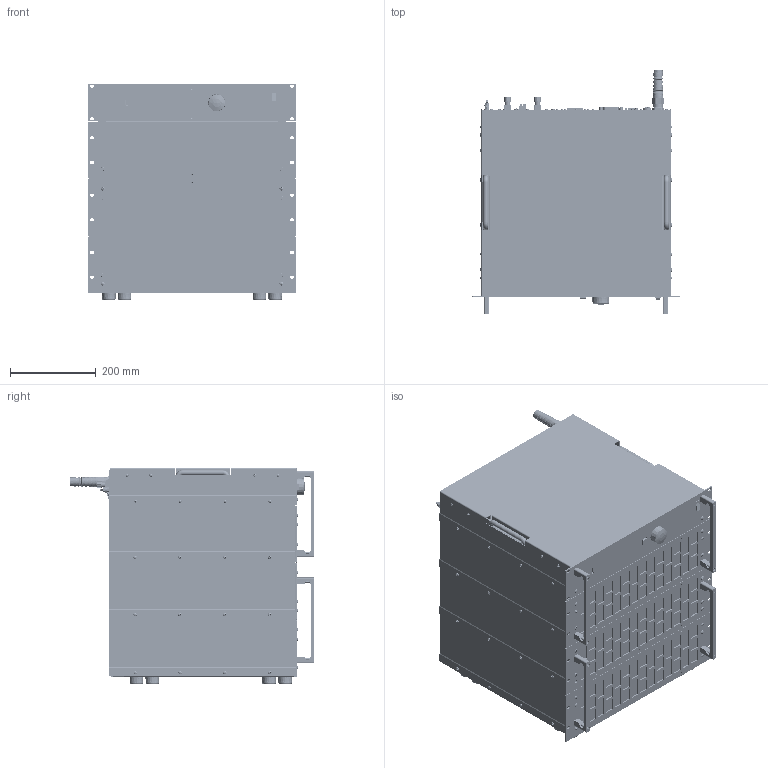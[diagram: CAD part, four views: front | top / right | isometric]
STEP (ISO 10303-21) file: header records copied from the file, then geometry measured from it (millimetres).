
FILE_DESCRIPTION(('STEP AP214'),'1');
FILE_NAME('QL_M23_19Z_11HE_BPK4_30L_3D_01.step','2022-03-15T09:42:29',(' '),(' '),'Spatial InterOp 3D',' ',' ');
FILE_SCHEMA(('AUTOMOTIVE_DESIGN { 1 0 10303 214 1 1 1 1 }'));
Length unit declared in the file: millimetre
Products named in the file (38): 3HE_Leistungsteil_mit_Gummifüssen_3D_01; *U404; *U405; *U406; *U415; AutoCreatedBlock_4227; 3HE_Leistungsteil_3D_01; *U420; *U421; *U422; AutoCreatedBlock_4253; DIN 966-A; Steuereinheit_BPK4_30L_mit_BG439_3D_01; 2121_Steuerteil_modular_Seitenteil_links_3D_02; 2122_Steuerteil_modular_Seitenteil_rechts_3D_02; A$C5EF2ED09; 3xM2.5_5x5x12; AutoCreatedBlock_4273; A$C6092449D; Frontplatte_5HE_Steuerteil_mit_Einbauten_3D; A$C60925E47; A$C60A76697; 2246_QL Rückwand Steuerteil 5HE_mit_Einbauten_3D_01; *U305; *U306; *U307; AutoCreatedBlock_4285; 2257_QL_IO Panel Standard_3D_01; 2084_IO-Port Abdeckung_3D_01; *U604; *U605; *U606; *U607; *U608; BG439_mit_MT2345_3D_01; AutoCreatedBlock_4263; AutoCreatedBlock_4223
Assembly tree (150 placements, depth 4):
  (unnamed)
    3HE_Leistungsteil_mit_Gummifüssen_3D_01
      *U404  x10
      *U405  x6
      *U406  x6
      *U415  x6
      AutoCreatedBlock_4227
    3HE_Leistungsteil_3D_01  x2
      *U420
      *U421
      *U422
      AutoCreatedBlock_4253
    DIN 966-A  x8
    Steuereinheit_BPK4_30L_mit_BG439_3D_01
      2121_Steuerteil_modular_Seitenteil_links_3D_02
      2122_Steuerteil_modular_Seitenteil_rechts_3D_02
      A$C5EF2ED09
        3xM2.5_5x5x12  x2
        AutoCreatedBlock_4273
      A$C6092449D
      Frontplatte_5HE_Steuerteil_mit_Einbauten_3D
      A$C60925E47
      A$C60A76697
      2246_QL Rückwand Steuerteil 5HE_mit_Einbauten_3D_01
        *U305
        *U306  x2
        *U307  x3
        AutoCreatedBlock_4285
      2257_QL_IO Panel Standard_3D_01
      2084_IO-Port Abdeckung_3D_01  x2
      *U604  x17
      *U605  x9
      *U606  x26
      *U607  x2
      *U608  x4
      BG439_mit_MT2345_3D_01
      AutoCreatedBlock_4263
    AutoCreatedBlock_4223
Bounding box: 482.61 x 569.25 x 504.57 mm (x, y, z)
Volume: 42945869.2 mm3; surface area: 5966170.3 mm2
Topology: 428 solids, 1189 shells, 30512 faces, 78778 edges, 50438 vertices
Faces by surface type: plane 14260, cone 10561, cylinder 4577, torus 483, sphere 336, bspline 273, extrusion 22
Entity records: 860462 total; most frequent: CARTESIAN_POINT 159043, DIRECTION 112505, ORIENTED_EDGE 105988, EDGE_CURVE 54374, AXIS2_PLACEMENT_3D 38212, VECTOR 36081, LINE 36059, VERTEX_POINT 34621
